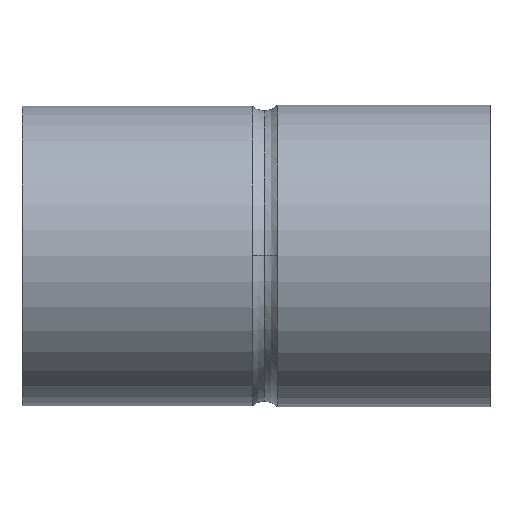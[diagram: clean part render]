
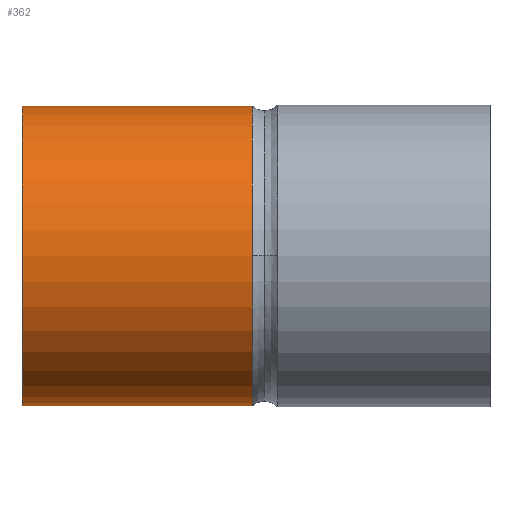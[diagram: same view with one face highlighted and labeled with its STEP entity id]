
A CAD part, top view. The second image highlights one B-rep face of the part: STEP entity #362.
In plain terms, the highlighted cylindrical face has radius 8 mm (diameter 16 mm), a partial arc.
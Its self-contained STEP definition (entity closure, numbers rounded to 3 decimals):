
#312=CARTESIAN_POINT('',(6.145,0.0,0.0));
#313=DIRECTION('',(1.0,0.0,0.0));
#314=DIRECTION('',(0.0,1.0,0.0));
#315=AXIS2_PLACEMENT_3D('',#312,#313,#314);
#316=CYLINDRICAL_SURFACE('',#315,8.0);
#317=CARTESIAN_POINT('',(0.0,8.0,0.0));
#318=VERTEX_POINT('',#317);
#319=CARTESIAN_POINT('',(12.291,8.0,0.0));
#320=VERTEX_POINT('',#319);
#321=CARTESIAN_POINT('',(0.0,8.0,0.0));
#322=DIRECTION('',(1.0,0.0,0.0));
#323=VECTOR('',#322,12.291);
#324=LINE('',#321,#323);
#325=EDGE_CURVE('',#318,#320,#324,.T.);
#326=ORIENTED_EDGE('',*,*,#325,.F.);
#327=CARTESIAN_POINT('',(0.0,-8.0,0.));
#328=VERTEX_POINT('',#327);
#329=CARTESIAN_POINT('',(0.0,0.0,0.0));
#330=DIRECTION('',(1.0,0.0,0.0));
#331=DIRECTION('',(0.0,1.0,0.0));
#332=AXIS2_PLACEMENT_3D('',#329,#330,#331);
#333=CIRCLE('',#332,8.0);
#334=EDGE_CURVE('',#318,#328,#333,.T.);
#335=ORIENTED_EDGE('',*,*,#334,.T.);
#336=CARTESIAN_POINT('',(12.291,-8.0,0.));
#337=VERTEX_POINT('',#336);
#338=CARTESIAN_POINT('',(12.291,-8.0,0.));
#339=DIRECTION('',(-1.0,0.0,0.0));
#340=VECTOR('',#339,12.291);
#341=LINE('',#338,#340);
#342=EDGE_CURVE('',#337,#328,#341,.T.);
#343=ORIENTED_EDGE('',*,*,#342,.F.);
#344=CARTESIAN_POINT('',(12.291,0.,8.0));
#345=VERTEX_POINT('',#344);
#346=CARTESIAN_POINT('',(12.291,0.0,0.0));
#347=DIRECTION('',(1.0,0.0,0.0));
#348=DIRECTION('',(0.0,1.0,0.0));
#349=AXIS2_PLACEMENT_3D('',#346,#347,#348);
#350=CIRCLE('',#349,8.0);
#351=EDGE_CURVE('',#345,#337,#350,.T.);
#352=ORIENTED_EDGE('',*,*,#351,.F.);
#353=CARTESIAN_POINT('',(12.291,0.0,0.0));
#354=DIRECTION('',(1.0,0.0,0.0));
#355=DIRECTION('',(0.0,1.0,0.0));
#356=AXIS2_PLACEMENT_3D('',#353,#354,#355);
#357=CIRCLE('',#356,8.0);
#358=EDGE_CURVE('',#320,#345,#357,.T.);
#359=ORIENTED_EDGE('',*,*,#358,.F.);
#360=EDGE_LOOP('',(#326,#335,#343,#352,#359));
#361=FACE_OUTER_BOUND('',#360,.T.);
#362=ADVANCED_FACE('',(#361),#316,.T.);
